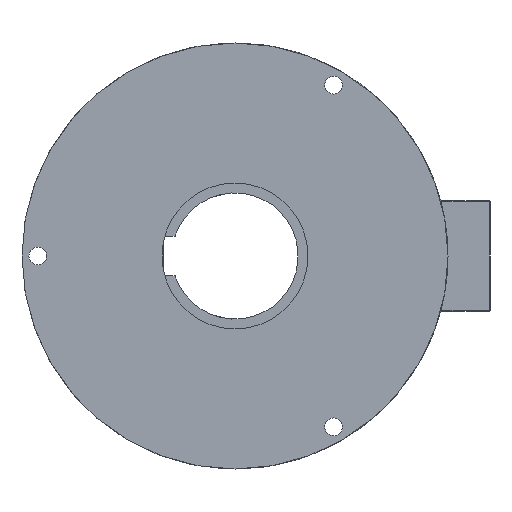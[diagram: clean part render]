
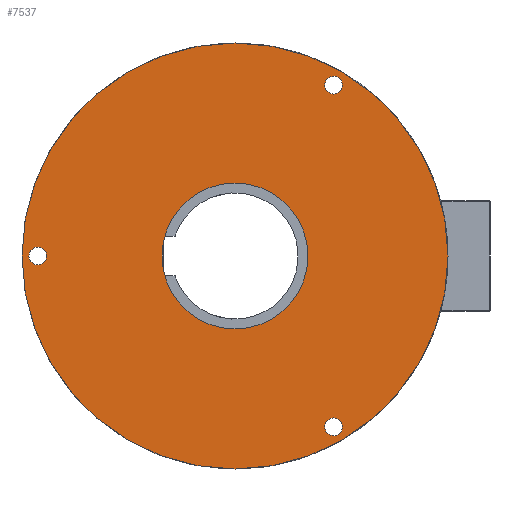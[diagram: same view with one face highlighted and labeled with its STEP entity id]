
A CAD part, left-side view. The second image highlights one B-rep face of the part: STEP entity #7537.
In plain terms, the highlighted planar face has unit normal (-1, 0, 0).
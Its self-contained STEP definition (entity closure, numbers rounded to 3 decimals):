
#190=PLANE('',#8345);
#279=FACE_BOUND('',#1018,.T.);
#280=FACE_BOUND('',#1019,.T.);
#281=FACE_BOUND('',#1020,.T.);
#282=FACE_BOUND('',#1021,.T.);
#576=FACE_OUTER_BOUND('',#1017,.T.);
#1017=EDGE_LOOP('',(#5766,#5767));
#1018=EDGE_LOOP('',(#5768));
#1019=EDGE_LOOP('',(#5769));
#1020=EDGE_LOOP('',(#5770));
#1021=EDGE_LOOP('',(#5771,#5772));
#1631=CIRCLE('',#8346,54.);
#1632=CIRCLE('',#8347,54.);
#1633=CIRCLE('',#8348,2.25);
#1634=CIRCLE('',#8349,2.25);
#1635=CIRCLE('',#8350,2.25);
#1636=CIRCLE('',#8351,18.5);
#1637=CIRCLE('',#8352,18.5);
#3107=VERTEX_POINT('',#12716);
#3108=VERTEX_POINT('',#12717);
#3109=VERTEX_POINT('',#12720);
#3110=VERTEX_POINT('',#12722);
#3111=VERTEX_POINT('',#12724);
#3112=VERTEX_POINT('',#12726);
#3113=VERTEX_POINT('',#12727);
#4071=EDGE_CURVE('',#3107,#3108,#1631,.T.);
#4072=EDGE_CURVE('',#3108,#3107,#1632,.T.);
#4073=EDGE_CURVE('',#3109,#3109,#1633,.T.);
#4074=EDGE_CURVE('',#3110,#3110,#1634,.T.);
#4075=EDGE_CURVE('',#3111,#3111,#1635,.T.);
#4076=EDGE_CURVE('',#3112,#3113,#1636,.T.);
#4077=EDGE_CURVE('',#3113,#3112,#1637,.T.);
#5766=ORIENTED_EDGE('',*,*,#4071,.F.);
#5767=ORIENTED_EDGE('',*,*,#4072,.F.);
#5768=ORIENTED_EDGE('',*,*,#4073,.T.);
#5769=ORIENTED_EDGE('',*,*,#4074,.T.);
#5770=ORIENTED_EDGE('',*,*,#4075,.T.);
#5771=ORIENTED_EDGE('',*,*,#4076,.T.);
#5772=ORIENTED_EDGE('',*,*,#4077,.T.);
#7537=ADVANCED_FACE('',(#576,#279,#280,#281,#282),#190,.T.);
#8345=AXIS2_PLACEMENT_3D('',#12715,#10284,#10285);
#8346=AXIS2_PLACEMENT_3D('',#12718,#10286,#10287);
#8347=AXIS2_PLACEMENT_3D('',#12719,#10288,#10289);
#8348=AXIS2_PLACEMENT_3D('',#12721,#10290,#10291);
#8349=AXIS2_PLACEMENT_3D('',#12723,#10292,#10293);
#8350=AXIS2_PLACEMENT_3D('',#12725,#10294,#10295);
#8351=AXIS2_PLACEMENT_3D('',#12728,#10296,#10297);
#8352=AXIS2_PLACEMENT_3D('',#12729,#10298,#10299);
#10284=DIRECTION('center_axis',(-1.,0.,0.));
#10285=DIRECTION('ref_axis',(0.,0.,1.));
#10286=DIRECTION('center_axis',(1.,0.,0.));
#10287=DIRECTION('ref_axis',(0.,0.,-1.));
#10288=DIRECTION('center_axis',(1.,0.,0.));
#10289=DIRECTION('ref_axis',(0.,0.,-1.));
#10290=DIRECTION('center_axis',(1.,0.,0.));
#10291=DIRECTION('ref_axis',(0.,0.,-1.));
#10292=DIRECTION('center_axis',(1.,0.,0.));
#10293=DIRECTION('ref_axis',(0.,0.,-1.));
#10294=DIRECTION('center_axis',(1.,0.,0.));
#10295=DIRECTION('ref_axis',(0.,0.,-1.));
#10296=DIRECTION('center_axis',(1.,0.,0.));
#10297=DIRECTION('ref_axis',(0.,0.,-1.));
#10298=DIRECTION('center_axis',(1.,0.,0.));
#10299=DIRECTION('ref_axis',(0.,0.,-1.));
#12715=CARTESIAN_POINT('Origin',(-13.,54.,0.));
#12716=CARTESIAN_POINT('',(-13.,54.,0.));
#12717=CARTESIAN_POINT('',(-13.,-54.,0.));
#12718=CARTESIAN_POINT('Origin',(-13.,0.,0.));
#12719=CARTESIAN_POINT('Origin',(-13.,0.,0.));
#12720=CARTESIAN_POINT('',(-13.,-25.,45.551));
#12721=CARTESIAN_POINT('Origin',(-13.,-25.,43.301));
#12722=CARTESIAN_POINT('',(-13.,50.,2.25));
#12723=CARTESIAN_POINT('Origin',(-13.,50.,0.));
#12724=CARTESIAN_POINT('',(-13.,-25.,-41.051));
#12725=CARTESIAN_POINT('Origin',(-13.,-25.,-43.301));
#12726=CARTESIAN_POINT('',(-13.,18.5,0.));
#12727=CARTESIAN_POINT('',(-13.,-18.5,0.));
#12728=CARTESIAN_POINT('Origin',(-13.,0.,0.));
#12729=CARTESIAN_POINT('Origin',(-13.,0.,0.));
